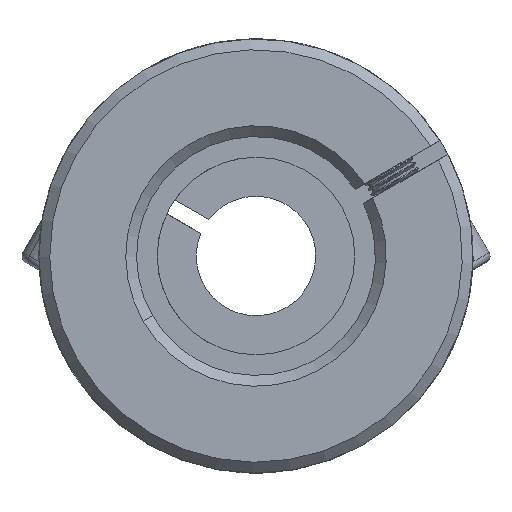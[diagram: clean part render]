
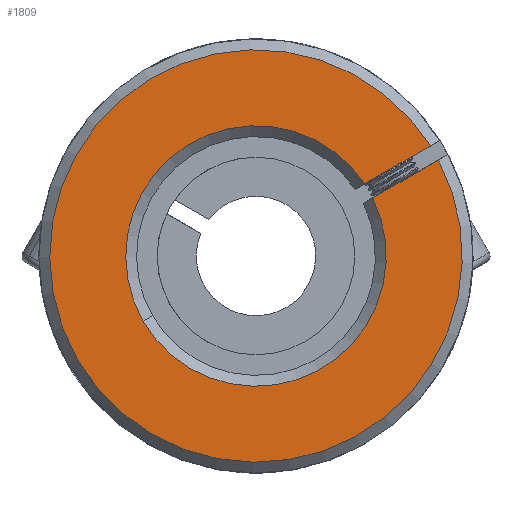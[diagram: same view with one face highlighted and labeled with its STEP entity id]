
A CAD part, front view. The second image highlights one B-rep face of the part: STEP entity #1809.
In plain terms, the highlighted planar face has unit normal (0, -1, 0).
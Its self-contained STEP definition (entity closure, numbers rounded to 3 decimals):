
#480 = LINE ( 'NONE', #3373, #4851 ) ;
#574 = CARTESIAN_POINT ( 'NONE',  ( 14.616, -31.239, 50.147 ) ) ;
#697 = DIRECTION ( 'NONE',  ( 0., -1., 0. ) ) ;
#1055 = VERTEX_POINT ( 'NONE', #3431 ) ;
#1283 = DIRECTION ( 'NONE',  ( -0.866, 0., -0.5 ) ) ;
#1339 = DIRECTION ( 'NONE',  ( 0., 1., 0. ) ) ;
#1550 = LINE ( 'NONE', #5420, #8655 ) ;
#1809 = ADVANCED_FACE ( 'NONE', ( #4104 ), #11038, .F. ) ;
#2095 = AXIS2_PLACEMENT_3D ( 'NONE', #5586, #1339, #12086 ) ;
#2285 = EDGE_CURVE ( 'NONE', #1055, #4555, #1550, .T. ) ;
#2381 = ORIENTED_EDGE ( 'NONE', *, *, #6458, .T. ) ;
#2514 = DIRECTION ( 'NONE',  ( 0.5, 0., -0.866 ) ) ;
#3373 = CARTESIAN_POINT ( 'NONE',  ( 7.68, -31.239, 46.14 ) ) ;
#3431 = CARTESIAN_POINT ( 'NONE',  ( 9.298, -31.239, 45.342 ) ) ;
#4104 = FACE_OUTER_BOUND ( 'NONE', #12234, .T. ) ;
#4188 = EDGE_CURVE ( 'NONE', #1055, #4862, #11171, .T. ) ;
#4379 = EDGE_CURVE ( 'NONE', #4862, #7564, #10301, .T. ) ;
#4555 = VERTEX_POINT ( 'NONE', #5409 ) ;
#4711 = CARTESIAN_POINT ( 'NONE',  ( -1.447, -31.239, 40. ) ) ;
#4851 = VECTOR ( 'NONE', #1283, 1000. ) ;
#4862 = VERTEX_POINT ( 'NONE', #6234 ) ;
#4868 = ORIENTED_EDGE ( 'NONE', *, *, #2285, .F. ) ;
#5322 = CARTESIAN_POINT ( 'NONE',  ( 8.548, -31.239, 46.641 ) ) ;
#5409 = CARTESIAN_POINT ( 'NONE',  ( 15.367, -31.239, 48.848 ) ) ;
#5420 = CARTESIAN_POINT ( 'NONE',  ( 8.431, -31.239, 44.841 ) ) ;
#5586 = CARTESIAN_POINT ( 'NONE',  ( 52.98, -31.239, 45.743 ) ) ;
#6234 = CARTESIAN_POINT ( 'NONE',  ( -11.837, -31.239, 33.997 ) ) ;
#6301 = EDGE_CURVE ( 'NONE', #13739, #7564, #480, .T. ) ;
#6434 = DIRECTION ( 'NONE',  ( 0.5, 0., -0.866 ) ) ;
#6458 = EDGE_CURVE ( 'NONE', #13739, #4555, #10096, .T. ) ;
#6489 = ORIENTED_EDGE ( 'NONE', *, *, #6301, .F. ) ;
#6504 = DIRECTION ( 'NONE',  ( 0.866, 0., 0.5 ) ) ;
#6624 = AXIS2_PLACEMENT_3D ( 'NONE', #4711, #7883, #2514 ) ;
#7209 = DIRECTION ( 'NONE',  ( 0.5, 0., -0.866 ) ) ;
#7564 = VERTEX_POINT ( 'NONE', #5322 ) ;
#7883 = DIRECTION ( 'NONE',  ( 0., 1., 0. ) ) ;
#8490 = CARTESIAN_POINT ( 'NONE',  ( -1.447, -31.239, 40. ) ) ;
#8631 = DIRECTION ( 'NONE',  ( 0., 1., 0. ) ) ;
#8655 = VECTOR ( 'NONE', #6504, 1000. ) ;
#9220 = ORIENTED_EDGE ( 'NONE', *, *, #4188, .T. ) ;
#9920 = AXIS2_PLACEMENT_3D ( 'NONE', #13641, #697, #7209 ) ;
#10096 = CIRCLE ( 'NONE', #9920, 19. ) ;
#10301 = CIRCLE ( 'NONE', #13292, 12. ) ;
#10624 = ORIENTED_EDGE ( 'NONE', *, *, #4379, .T. ) ;
#11038 = PLANE ( 'NONE',  #2095 ) ;
#11171 = CIRCLE ( 'NONE', #6624, 12. ) ;
#12086 = DIRECTION ( 'NONE',  ( 0.5, 0., -0.866 ) ) ;
#12234 = EDGE_LOOP ( 'NONE', ( #4868, #9220, #10624, #6489, #2381 ) ) ;
#13292 = AXIS2_PLACEMENT_3D ( 'NONE', #8490, #8631, #6434 ) ;
#13641 = CARTESIAN_POINT ( 'NONE',  ( -1.447, -31.239, 40. ) ) ;
#13739 = VERTEX_POINT ( 'NONE', #574 ) ;
